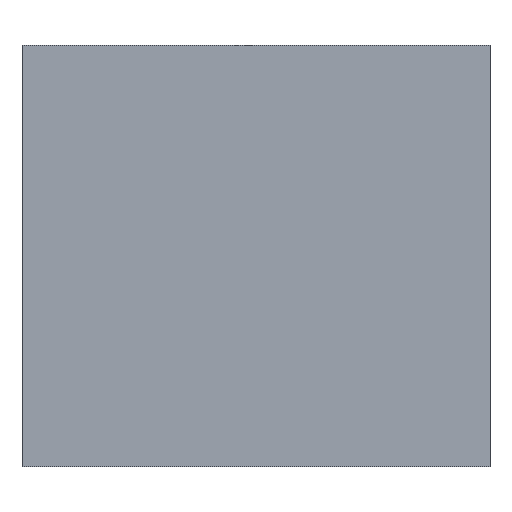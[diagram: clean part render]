
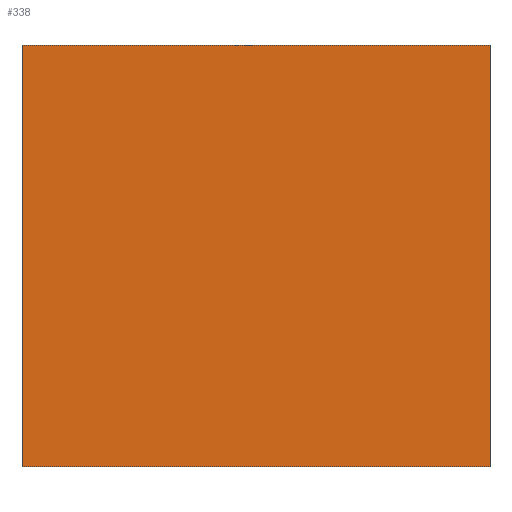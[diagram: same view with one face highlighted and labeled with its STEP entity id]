
A CAD part, top view. The second image highlights one B-rep face of the part: STEP entity #338.
In plain terms, the highlighted planar face has unit normal (0, 0, 1).
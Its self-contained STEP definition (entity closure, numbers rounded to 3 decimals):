
#24 = VERTEX_POINT('',#25);
#25 = CARTESIAN_POINT('',(-250.,-225.,15.));
#32 = PLANE('',#33);
#33 = AXIS2_PLACEMENT_3D('',#34,#35,#36);
#34 = CARTESIAN_POINT('',(-250.,-225.,-15.));
#35 = DIRECTION('',(1.,0.,0.));
#36 = DIRECTION('',(0.,0.,1.));
#44 = PLANE('',#45);
#45 = AXIS2_PLACEMENT_3D('',#46,#47,#48);
#46 = CARTESIAN_POINT('',(-250.,-225.,-15.));
#47 = DIRECTION('',(0.,1.,0.));
#48 = DIRECTION('',(0.,0.,1.));
#85 = VERTEX_POINT('',#86);
#86 = CARTESIAN_POINT('',(-250.,225.,15.));
#100 = PLANE('',#101);
#101 = AXIS2_PLACEMENT_3D('',#102,#103,#104);
#102 = CARTESIAN_POINT('',(-250.,225.,-15.));
#103 = DIRECTION('',(0.,1.,0.));
#104 = DIRECTION('',(0.,0.,1.));
#112 = EDGE_CURVE('',#24,#85,#113,.T.);
#113 = SURFACE_CURVE('',#114,(#118,#125),.PCURVE_S1.);
#114 = LINE('',#115,#116);
#115 = CARTESIAN_POINT('',(-250.,-225.,15.));
#116 = VECTOR('',#117,1.);
#117 = DIRECTION('',(0.,1.,0.));
#118 = PCURVE('',#32,#119);
#119 = DEFINITIONAL_REPRESENTATION('',(#120),#124);
#120 = LINE('',#121,#122);
#121 = CARTESIAN_POINT('',(30.,0.));
#122 = VECTOR('',#123,1.);
#123 = DIRECTION('',(0.,-1.));
#124 = ( GEOMETRIC_REPRESENTATION_CONTEXT(2) 
PARAMETRIC_REPRESENTATION_CONTEXT() REPRESENTATION_CONTEXT('2D SPACE',''
  ) );
#125 = PCURVE('',#126,#131);
#126 = PLANE('',#127);
#127 = AXIS2_PLACEMENT_3D('',#128,#129,#130);
#128 = CARTESIAN_POINT('',(-250.,-225.,15.));
#129 = DIRECTION('',(0.,0.,1.));
#130 = DIRECTION('',(1.,0.,0.));
#131 = DEFINITIONAL_REPRESENTATION('',(#132),#136);
#132 = LINE('',#133,#134);
#133 = CARTESIAN_POINT('',(0.,0.));
#134 = VECTOR('',#135,1.);
#135 = DIRECTION('',(0.,1.));
#136 = ( GEOMETRIC_REPRESENTATION_CONTEXT(2) 
PARAMETRIC_REPRESENTATION_CONTEXT() REPRESENTATION_CONTEXT('2D SPACE',''
  ) );
#144 = VERTEX_POINT('',#145);
#145 = CARTESIAN_POINT('',(250.,-225.,15.));
#152 = PLANE('',#153);
#153 = AXIS2_PLACEMENT_3D('',#154,#155,#156);
#154 = CARTESIAN_POINT('',(250.,-225.,-15.));
#155 = DIRECTION('',(1.,0.,0.));
#156 = DIRECTION('',(0.,0.,1.));
#195 = VERTEX_POINT('',#196);
#196 = CARTESIAN_POINT('',(250.,225.,15.));
#217 = EDGE_CURVE('',#144,#195,#218,.T.);
#218 = SURFACE_CURVE('',#219,(#223,#230),.PCURVE_S1.);
#219 = LINE('',#220,#221);
#220 = CARTESIAN_POINT('',(250.,-225.,15.));
#221 = VECTOR('',#222,1.);
#222 = DIRECTION('',(0.,1.,0.));
#223 = PCURVE('',#152,#224);
#224 = DEFINITIONAL_REPRESENTATION('',(#225),#229);
#225 = LINE('',#226,#227);
#226 = CARTESIAN_POINT('',(30.,0.));
#227 = VECTOR('',#228,1.);
#228 = DIRECTION('',(0.,-1.));
#229 = ( GEOMETRIC_REPRESENTATION_CONTEXT(2) 
PARAMETRIC_REPRESENTATION_CONTEXT() REPRESENTATION_CONTEXT('2D SPACE',''
  ) );
#230 = PCURVE('',#126,#231);
#231 = DEFINITIONAL_REPRESENTATION('',(#232),#236);
#232 = LINE('',#233,#234);
#233 = CARTESIAN_POINT('',(500.,0.));
#234 = VECTOR('',#235,1.);
#235 = DIRECTION('',(0.,1.));
#236 = ( GEOMETRIC_REPRESENTATION_CONTEXT(2) 
PARAMETRIC_REPRESENTATION_CONTEXT() REPRESENTATION_CONTEXT('2D SPACE',''
  ) );
#263 = EDGE_CURVE('',#24,#144,#264,.T.);
#264 = SURFACE_CURVE('',#265,(#269,#276),.PCURVE_S1.);
#265 = LINE('',#266,#267);
#266 = CARTESIAN_POINT('',(-250.,-225.,15.));
#267 = VECTOR('',#268,1.);
#268 = DIRECTION('',(1.,0.,0.));
#269 = PCURVE('',#44,#270);
#270 = DEFINITIONAL_REPRESENTATION('',(#271),#275);
#271 = LINE('',#272,#273);
#272 = CARTESIAN_POINT('',(30.,0.));
#273 = VECTOR('',#274,1.);
#274 = DIRECTION('',(0.,1.));
#275 = ( GEOMETRIC_REPRESENTATION_CONTEXT(2) 
PARAMETRIC_REPRESENTATION_CONTEXT() REPRESENTATION_CONTEXT('2D SPACE',''
  ) );
#276 = PCURVE('',#126,#277);
#277 = DEFINITIONAL_REPRESENTATION('',(#278),#282);
#278 = LINE('',#279,#280);
#279 = CARTESIAN_POINT('',(0.,0.));
#280 = VECTOR('',#281,1.);
#281 = DIRECTION('',(1.,0.));
#282 = ( GEOMETRIC_REPRESENTATION_CONTEXT(2) 
PARAMETRIC_REPRESENTATION_CONTEXT() REPRESENTATION_CONTEXT('2D SPACE',''
  ) );
#310 = EDGE_CURVE('',#85,#195,#311,.T.);
#311 = SURFACE_CURVE('',#312,(#316,#323),.PCURVE_S1.);
#312 = LINE('',#313,#314);
#313 = CARTESIAN_POINT('',(-250.,225.,15.));
#314 = VECTOR('',#315,1.);
#315 = DIRECTION('',(1.,0.,0.));
#316 = PCURVE('',#100,#317);
#317 = DEFINITIONAL_REPRESENTATION('',(#318),#322);
#318 = LINE('',#319,#320);
#319 = CARTESIAN_POINT('',(30.,0.));
#320 = VECTOR('',#321,1.);
#321 = DIRECTION('',(0.,1.));
#322 = ( GEOMETRIC_REPRESENTATION_CONTEXT(2) 
PARAMETRIC_REPRESENTATION_CONTEXT() REPRESENTATION_CONTEXT('2D SPACE',''
  ) );
#323 = PCURVE('',#126,#324);
#324 = DEFINITIONAL_REPRESENTATION('',(#325),#329);
#325 = LINE('',#326,#327);
#326 = CARTESIAN_POINT('',(0.,450.));
#327 = VECTOR('',#328,1.);
#328 = DIRECTION('',(1.,0.));
#329 = ( GEOMETRIC_REPRESENTATION_CONTEXT(2) 
PARAMETRIC_REPRESENTATION_CONTEXT() REPRESENTATION_CONTEXT('2D SPACE',''
  ) );
#338 = ADVANCED_FACE('',(#339),#126,.T.);
#339 = FACE_BOUND('',#340,.T.);
#340 = EDGE_LOOP('',(#341,#342,#343,#344));
#341 = ORIENTED_EDGE('',*,*,#112,.F.);
#342 = ORIENTED_EDGE('',*,*,#263,.T.);
#343 = ORIENTED_EDGE('',*,*,#217,.T.);
#344 = ORIENTED_EDGE('',*,*,#310,.F.);
